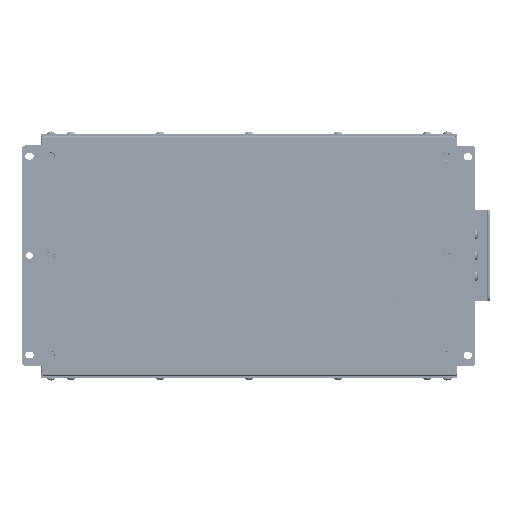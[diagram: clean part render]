
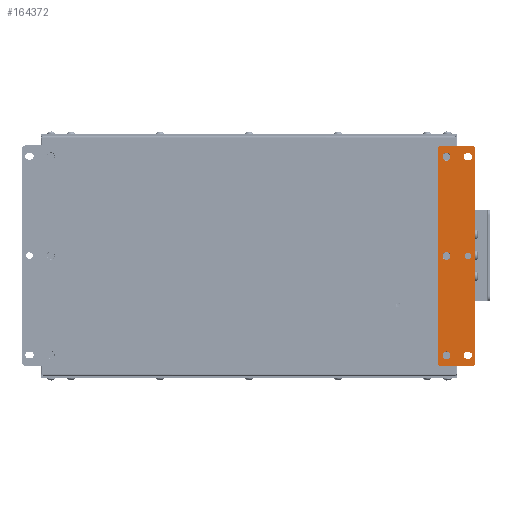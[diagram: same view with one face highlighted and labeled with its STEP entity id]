
A CAD part, front view. The second image highlights one B-rep face of the part: STEP entity #164372.
In plain terms, the highlighted planar face has unit normal (0, -1, 0).
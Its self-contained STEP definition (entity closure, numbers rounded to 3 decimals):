
#5872=FACE_BOUND('',#22739,.T.);
#5873=FACE_BOUND('',#22740,.T.);
#5874=FACE_BOUND('',#22741,.T.);
#5875=FACE_BOUND('',#22742,.T.);
#5876=FACE_BOUND('',#22743,.T.);
#5877=FACE_BOUND('',#22744,.T.);
#7909=PLANE('',#174427);
#13664=FACE_OUTER_BOUND('',#22738,.T.);
#22738=EDGE_LOOP('',(#114296,#114297,#114298,#114299,#114300,#114301,#114302,
#114303));
#22739=EDGE_LOOP('',(#114304));
#22740=EDGE_LOOP('',(#114305));
#22741=EDGE_LOOP('',(#114306));
#22742=EDGE_LOOP('',(#114307));
#22743=EDGE_LOOP('',(#114308,#114309,#114310,#114311));
#22744=EDGE_LOOP('',(#114312,#114313,#114314,#114315));
#34009=LINE('',#239023,#49225);
#34012=LINE('',#239031,#49228);
#34016=LINE('',#239041,#49232);
#34019=LINE('',#239049,#49235);
#34024=LINE('',#239065,#49240);
#34027=LINE('',#239073,#49243);
#34030=LINE('',#239081,#49246);
#34033=LINE('',#239088,#49249);
#49225=VECTOR('',#193169,10.);
#49228=VECTOR('',#193178,10.);
#49232=VECTOR('',#193190,10.);
#49235=VECTOR('',#193199,10.);
#49240=VECTOR('',#193218,10.);
#49243=VECTOR('',#193227,10.);
#49246=VECTOR('',#193236,10.);
#49249=VECTOR('',#193245,10.);
#62294=CIRCLE('',#174395,4.);
#62295=CIRCLE('',#174397,4.);
#62296=CIRCLE('',#174399,4.);
#62297=CIRCLE('',#174402,3.3);
#62298=CIRCLE('',#174405,3.3);
#62299=CIRCLE('',#174409,3.3);
#62300=CIRCLE('',#174412,3.3);
#62301=CIRCLE('',#174414,3.3);
#62302=CIRCLE('',#174416,4.);
#62303=CIRCLE('',#174419,4.);
#62304=CIRCLE('',#174422,4.);
#62305=CIRCLE('',#174425,4.);
#69041=VERTEX_POINT('',#239008);
#69042=VERTEX_POINT('',#239012);
#69043=VERTEX_POINT('',#239016);
#69044=VERTEX_POINT('',#239020);
#69045=VERTEX_POINT('',#239022);
#69046=VERTEX_POINT('',#239026);
#69047=VERTEX_POINT('',#239030);
#69048=VERTEX_POINT('',#239038);
#69049=VERTEX_POINT('',#239040);
#69050=VERTEX_POINT('',#239044);
#69051=VERTEX_POINT('',#239048);
#69052=VERTEX_POINT('',#239054);
#69053=VERTEX_POINT('',#239058);
#69054=VERTEX_POINT('',#239060);
#69055=VERTEX_POINT('',#239064);
#69056=VERTEX_POINT('',#239068);
#69057=VERTEX_POINT('',#239072);
#69058=VERTEX_POINT('',#239076);
#69059=VERTEX_POINT('',#239080);
#69060=VERTEX_POINT('',#239084);
#86051=EDGE_CURVE('',#69041,#69041,#62294,.T.);
#86053=EDGE_CURVE('',#69042,#69042,#62295,.T.);
#86055=EDGE_CURVE('',#69043,#69043,#62296,.T.);
#86058=EDGE_CURVE('',#69045,#69044,#34009,.T.);
#86060=EDGE_CURVE('',#69046,#69045,#62297,.T.);
#86062=EDGE_CURVE('',#69047,#69046,#34012,.T.);
#86064=EDGE_CURVE('',#69044,#69047,#62298,.T.);
#86067=EDGE_CURVE('',#69049,#69048,#34016,.T.);
#86069=EDGE_CURVE('',#69050,#69049,#62299,.T.);
#86071=EDGE_CURVE('',#69051,#69050,#34019,.T.);
#86073=EDGE_CURVE('',#69048,#69051,#62300,.T.);
#86074=EDGE_CURVE('',#69052,#69052,#62301,.T.);
#86077=EDGE_CURVE('',#69054,#69053,#62302,.T.);
#86079=EDGE_CURVE('',#69055,#69054,#34024,.T.);
#86081=EDGE_CURVE('',#69056,#69055,#62303,.T.);
#86083=EDGE_CURVE('',#69057,#69056,#34027,.T.);
#86085=EDGE_CURVE('',#69058,#69057,#62304,.T.);
#86087=EDGE_CURVE('',#69059,#69058,#34030,.T.);
#86089=EDGE_CURVE('',#69060,#69059,#62305,.T.);
#86091=EDGE_CURVE('',#69053,#69060,#34033,.T.);
#114296=ORIENTED_EDGE('',*,*,#86091,.T.);
#114297=ORIENTED_EDGE('',*,*,#86089,.T.);
#114298=ORIENTED_EDGE('',*,*,#86087,.T.);
#114299=ORIENTED_EDGE('',*,*,#86085,.T.);
#114300=ORIENTED_EDGE('',*,*,#86083,.T.);
#114301=ORIENTED_EDGE('',*,*,#86081,.T.);
#114302=ORIENTED_EDGE('',*,*,#86079,.T.);
#114303=ORIENTED_EDGE('',*,*,#86077,.T.);
#114304=ORIENTED_EDGE('',*,*,#86051,.T.);
#114305=ORIENTED_EDGE('',*,*,#86053,.T.);
#114306=ORIENTED_EDGE('',*,*,#86055,.T.);
#114307=ORIENTED_EDGE('',*,*,#86074,.T.);
#114308=ORIENTED_EDGE('',*,*,#86073,.T.);
#114309=ORIENTED_EDGE('',*,*,#86071,.T.);
#114310=ORIENTED_EDGE('',*,*,#86069,.T.);
#114311=ORIENTED_EDGE('',*,*,#86067,.T.);
#114312=ORIENTED_EDGE('',*,*,#86064,.T.);
#114313=ORIENTED_EDGE('',*,*,#86062,.T.);
#114314=ORIENTED_EDGE('',*,*,#86060,.T.);
#114315=ORIENTED_EDGE('',*,*,#86058,.T.);
#164372=ADVANCED_FACE('',(#13664,#5872,#5873,#5874,#5875,#5876,#5877),#7909,
 .T.);
#174395=AXIS2_PLACEMENT_3D('',#239009,#193153,#193154);
#174397=AXIS2_PLACEMENT_3D('',#239013,#193158,#193159);
#174399=AXIS2_PLACEMENT_3D('',#239017,#193163,#193164);
#174402=AXIS2_PLACEMENT_3D('',#239027,#193173,#193174);
#174405=AXIS2_PLACEMENT_3D('',#239034,#193182,#193183);
#174409=AXIS2_PLACEMENT_3D('',#239045,#193194,#193195);
#174412=AXIS2_PLACEMENT_3D('',#239052,#193203,#193204);
#174414=AXIS2_PLACEMENT_3D('',#239055,#193207,#193208);
#174416=AXIS2_PLACEMENT_3D('',#239061,#193213,#193214);
#174419=AXIS2_PLACEMENT_3D('',#239069,#193222,#193223);
#174422=AXIS2_PLACEMENT_3D('',#239077,#193231,#193232);
#174425=AXIS2_PLACEMENT_3D('',#239085,#193240,#193241);
#174427=AXIS2_PLACEMENT_3D('',#239089,#193246,#193247);
#193153=DIRECTION('center_axis',(0.,1.,0.));
#193154=DIRECTION('ref_axis',(0.,0.,
1.));
#193158=DIRECTION('center_axis',(0.,1.,0.));
#193159=DIRECTION('ref_axis',(0.,0.,
1.));
#193163=DIRECTION('center_axis',(0.,1.,0.));
#193164=DIRECTION('ref_axis',(0.,0.,
1.));
#193169=DIRECTION('',(-1.,0.,0.));
#193173=DIRECTION('center_axis',(0.,1.,0.));
#193174=DIRECTION('ref_axis',(0.,0.,
1.));
#193178=DIRECTION('',(1.,0.,0.));
#193182=DIRECTION('center_axis',(0.,1.,0.));
#193183=DIRECTION('ref_axis',(0.,0.,
-1.));
#193190=DIRECTION('',(-1.,0.,0.));
#193194=DIRECTION('center_axis',(0.,1.,0.));
#193195=DIRECTION('ref_axis',(0.,0.,
1.));
#193199=DIRECTION('',(1.,0.,0.));
#193203=DIRECTION('center_axis',(0.,1.,0.));
#193204=DIRECTION('ref_axis',(0.,0.,
-1.));
#193207=DIRECTION('center_axis',(0.,1.,0.));
#193208=DIRECTION('ref_axis',(0.,0.,
1.));
#193213=DIRECTION('center_axis',(0.,-1.,0.));
#193214=DIRECTION('ref_axis',(0.,0.,
-1.));
#193218=DIRECTION('',(1.,0.,0.));
#193222=DIRECTION('center_axis',(0.,-1.,0.));
#193223=DIRECTION('ref_axis',(-1.,0.,0.));
#193227=DIRECTION('',(0.,0.,-1.));
#193231=DIRECTION('center_axis',(0.,-1.,0.));
#193232=DIRECTION('ref_axis',(0.,0.,
1.));
#193236=DIRECTION('',(-1.,0.,0.));
#193240=DIRECTION('center_axis',(0.,-1.,0.));
#193241=DIRECTION('ref_axis',(1.,0.,0.));
#193245=DIRECTION('',(0.,0.,1.));
#193246=DIRECTION('center_axis',(0.,-1.,0.));
#193247=DIRECTION('ref_axis',(1.,0.,0.));
#239008=CARTESIAN_POINT('',(198.605,-71.961,95.973));
#239009=CARTESIAN_POINT('Origin',(198.605,-71.961,99.973));
#239012=CARTESIAN_POINT('',(198.605,-71.961,-4.027));
#239013=CARTESIAN_POINT('Origin',(198.605,-71.961,-0.027));
#239016=CARTESIAN_POINT('',(198.605,-71.961,-104.027));
#239017=CARTESIAN_POINT('Origin',(198.605,-71.961,-100.027));
#239020=CARTESIAN_POINT('',(219.105,-71.961,-103.327));
#239022=CARTESIAN_POINT('',(221.105,-71.961,-103.327));
#239023=CARTESIAN_POINT('',(221.105,-71.961,-103.327));
#239026=CARTESIAN_POINT('',(221.105,-71.961,-96.727));
#239027=CARTESIAN_POINT('Origin',(221.105,-71.961,-100.027));
#239030=CARTESIAN_POINT('',(219.105,-71.961,-96.727));
#239031=CARTESIAN_POINT('',(219.105,-71.961,-96.727));
#239034=CARTESIAN_POINT('Origin',(219.105,-71.961,-100.027));
#239038=CARTESIAN_POINT('',(219.105,-71.961,96.673));
#239040=CARTESIAN_POINT('',(221.105,-71.961,96.673));
#239041=CARTESIAN_POINT('',(221.105,-71.961,96.673));
#239044=CARTESIAN_POINT('',(221.105,-71.961,103.273));
#239045=CARTESIAN_POINT('Origin',(221.105,-71.961,99.973));
#239048=CARTESIAN_POINT('',(219.105,-71.961,103.273));
#239049=CARTESIAN_POINT('',(219.105,-71.961,103.273));
#239052=CARTESIAN_POINT('Origin',(219.105,-71.961,99.973));
#239054=CARTESIAN_POINT('',(220.105,-71.961,-3.327));
#239055=CARTESIAN_POINT('Origin',(220.105,-71.961,-0.027));
#239058=CARTESIAN_POINT('',(227.605,-71.961,-107.027));
#239060=CARTESIAN_POINT('',(223.605,-71.961,-111.027));
#239061=CARTESIAN_POINT('Origin',(223.605,-71.961,-107.027));
#239064=CARTESIAN_POINT('',(193.605,-71.961,-111.027));
#239065=CARTESIAN_POINT('',(193.605,-71.961,-111.027));
#239068=CARTESIAN_POINT('',(189.605,-71.961,-107.027));
#239069=CARTESIAN_POINT('Origin',(193.605,-71.961,-107.027));
#239072=CARTESIAN_POINT('',(189.605,-71.961,106.973));
#239073=CARTESIAN_POINT('',(189.605,-71.961,106.973));
#239076=CARTESIAN_POINT('',(193.605,-71.961,110.973));
#239077=CARTESIAN_POINT('Origin',(193.605,-71.961,106.973));
#239080=CARTESIAN_POINT('',(223.605,-71.961,110.973));
#239081=CARTESIAN_POINT('',(223.605,-71.961,110.973));
#239084=CARTESIAN_POINT('',(227.605,-71.961,106.973));
#239085=CARTESIAN_POINT('Origin',(223.605,-71.961,106.973));
#239088=CARTESIAN_POINT('',(227.605,-71.961,-107.027));
#239089=CARTESIAN_POINT('Origin',(208.605,-71.961,-0.027));
